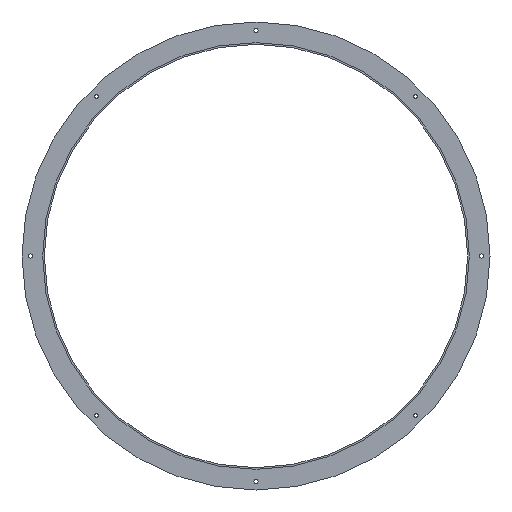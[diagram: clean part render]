
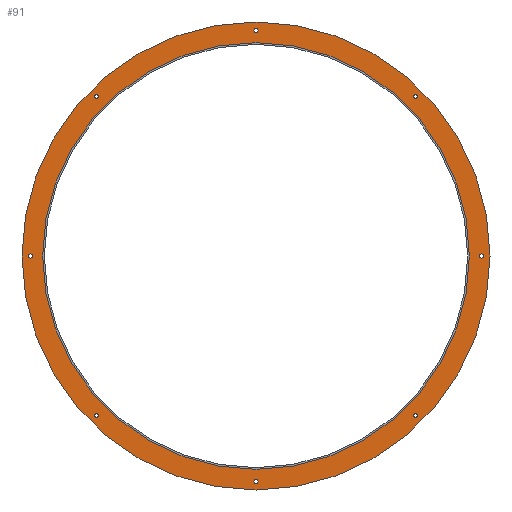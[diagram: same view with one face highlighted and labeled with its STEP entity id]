
A CAD part, front view. The second image highlights one B-rep face of the part: STEP entity #91.
In plain terms, the highlighted planar face has unit normal (0, -1, 0).
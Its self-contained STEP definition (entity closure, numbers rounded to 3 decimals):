
#91=ADVANCED_FACE('',(#179,#180,#181,#182,#183,#184,#185,#186,#187,#188),#189,.F.);
#179=FACE_BOUND('',#280,.T.);
#180=FACE_BOUND('',#281,.T.);
#181=FACE_BOUND('',#282,.T.);
#182=FACE_BOUND('',#283,.T.);
#183=FACE_BOUND('',#284,.T.);
#184=FACE_BOUND('',#285,.T.);
#185=FACE_BOUND('',#286,.T.);
#186=FACE_BOUND('',#287,.T.);
#187=FACE_OUTER_BOUND('',#288,.T.);
#188=FACE_BOUND('',#289,.T.);
#189=PLANE('',#290);
#280=EDGE_LOOP('',(#480,#481));
#281=EDGE_LOOP('',(#482,#483));
#282=EDGE_LOOP('',(#484,#485));
#283=EDGE_LOOP('',(#486,#487));
#284=EDGE_LOOP('',(#488,#489));
#285=EDGE_LOOP('',(#490,#491));
#286=EDGE_LOOP('',(#492,#493));
#287=EDGE_LOOP('',(#494,#495));
#288=EDGE_LOOP('',(#496,#497));
#289=EDGE_LOOP('',(#498,#499));
#290=AXIS2_PLACEMENT_3D('',#500,#501,#502);
#480=ORIENTED_EDGE('',*,*,#595,.T.);
#481=ORIENTED_EDGE('',*,*,#600,.T.);
#482=ORIENTED_EDGE('',*,*,#590,.T.);
#483=ORIENTED_EDGE('',*,*,#603,.T.);
#484=ORIENTED_EDGE('',*,*,#585,.T.);
#485=ORIENTED_EDGE('',*,*,#606,.T.);
#486=ORIENTED_EDGE('',*,*,#580,.T.);
#487=ORIENTED_EDGE('',*,*,#609,.T.);
#488=ORIENTED_EDGE('',*,*,#575,.T.);
#489=ORIENTED_EDGE('',*,*,#612,.T.);
#490=ORIENTED_EDGE('',*,*,#570,.T.);
#491=ORIENTED_EDGE('',*,*,#615,.T.);
#492=ORIENTED_EDGE('',*,*,#565,.T.);
#493=ORIENTED_EDGE('',*,*,#618,.T.);
#494=ORIENTED_EDGE('',*,*,#560,.T.);
#495=ORIENTED_EDGE('',*,*,#621,.T.);
#496=ORIENTED_EDGE('',*,*,#547,.F.);
#497=ORIENTED_EDGE('',*,*,#629,.F.);
#498=ORIENTED_EDGE('',*,*,#552,.F.);
#499=ORIENTED_EDGE('',*,*,#626,.F.);
#500=CARTESIAN_POINT('',(0.0,-4.0,0.));
#501=DIRECTION('',(0.0,1.0,0.));
#502=DIRECTION('',(1.0,0.0,0.0));
#547=EDGE_CURVE('',#640,#636,#642,.T.);
#552=EDGE_CURVE('',#649,#645,#651,.T.);
#560=EDGE_CURVE('',#665,#662,#666,.T.);
#565=EDGE_CURVE('',#674,#671,#675,.T.);
#570=EDGE_CURVE('',#683,#680,#684,.T.);
#575=EDGE_CURVE('',#692,#689,#693,.T.);
#580=EDGE_CURVE('',#701,#698,#702,.T.);
#585=EDGE_CURVE('',#710,#707,#711,.T.);
#590=EDGE_CURVE('',#719,#716,#720,.T.);
#595=EDGE_CURVE('',#728,#725,#729,.T.);
#600=EDGE_CURVE('',#725,#728,#735,.T.);
#603=EDGE_CURVE('',#716,#719,#738,.T.);
#606=EDGE_CURVE('',#707,#710,#741,.T.);
#609=EDGE_CURVE('',#698,#701,#744,.T.);
#612=EDGE_CURVE('',#689,#692,#747,.T.);
#615=EDGE_CURVE('',#680,#683,#750,.T.);
#618=EDGE_CURVE('',#671,#674,#753,.T.);
#621=EDGE_CURVE('',#662,#665,#756,.T.);
#626=EDGE_CURVE('',#645,#649,#761,.T.);
#629=EDGE_CURVE('',#636,#640,#764,.T.);
#636=VERTEX_POINT('',#771);
#640=VERTEX_POINT('',#776);
#642=CIRCLE('',#779,555.0);
#645=VERTEX_POINT('',#782);
#649=VERTEX_POINT('',#787);
#651=CIRCLE('',#790,506.0);
#662=VERTEX_POINT('',#803);
#665=VERTEX_POINT('',#807);
#666=CIRCLE('',#808,5.0);
#671=VERTEX_POINT('',#814);
#674=VERTEX_POINT('',#818);
#675=CIRCLE('',#819,5.0);
#680=VERTEX_POINT('',#825);
#683=VERTEX_POINT('',#829);
#684=CIRCLE('',#830,5.0);
#689=VERTEX_POINT('',#836);
#692=VERTEX_POINT('',#840);
#693=CIRCLE('',#841,5.0);
#698=VERTEX_POINT('',#847);
#701=VERTEX_POINT('',#851);
#702=CIRCLE('',#852,5.0);
#707=VERTEX_POINT('',#858);
#710=VERTEX_POINT('',#862);
#711=CIRCLE('',#863,5.0);
#716=VERTEX_POINT('',#869);
#719=VERTEX_POINT('',#873);
#720=CIRCLE('',#874,5.0);
#725=VERTEX_POINT('',#880);
#728=VERTEX_POINT('',#884);
#729=CIRCLE('',#885,5.0);
#735=CIRCLE('',#892,5.0);
#738=CIRCLE('',#895,5.0);
#741=CIRCLE('',#898,5.0);
#744=CIRCLE('',#901,5.0);
#747=CIRCLE('',#904,5.0);
#750=CIRCLE('',#907,5.0);
#753=CIRCLE('',#910,5.0);
#756=CIRCLE('',#913,5.0);
#761=CIRCLE('',#918,506.0);
#764=CIRCLE('',#921,555.0);
#771=CARTESIAN_POINT('',(555.0,-4.0,0.));
#776=CARTESIAN_POINT('',(-555.0,-4.0,0.));
#779=AXIS2_PLACEMENT_3D('',#931,#932,#933);
#782=CARTESIAN_POINT('',(506.0,-4.0,0.));
#787=CARTESIAN_POINT('',(-506.0,-4.0,0.));
#790=AXIS2_PLACEMENT_3D('',#939,#940,#941);
#803=CARTESIAN_POINT('',(540.0,-4.0,0.));
#807=CARTESIAN_POINT('',(530.0,-4.0,0.));
#808=AXIS2_PLACEMENT_3D('',#951,#952,#953);
#814=CARTESIAN_POINT('',(381.838,-4.,381.838));
#818=CARTESIAN_POINT('',(374.767,-4.,374.767));
#819=AXIS2_PLACEMENT_3D('',#959,#960,#961);
#825=CARTESIAN_POINT('',(0.,-4.,540.0));
#829=CARTESIAN_POINT('',(0.,-4.,530.0));
#830=AXIS2_PLACEMENT_3D('',#967,#968,#969);
#836=CARTESIAN_POINT('',(-381.838,-4.,381.838));
#840=CARTESIAN_POINT('',(-374.767,-4.,374.767));
#841=AXIS2_PLACEMENT_3D('',#975,#976,#977);
#847=CARTESIAN_POINT('',(-540.0,-4.0,0.));
#851=CARTESIAN_POINT('',(-530.0,-4.0,0.));
#852=AXIS2_PLACEMENT_3D('',#983,#984,#985);
#858=CARTESIAN_POINT('',(-381.838,-4.,-381.838));
#862=CARTESIAN_POINT('',(-374.767,-4.,-374.767));
#863=AXIS2_PLACEMENT_3D('',#991,#992,#993);
#869=CARTESIAN_POINT('',(0.,-4.,-540.0));
#873=CARTESIAN_POINT('',(0.,-4.,-530.0));
#874=AXIS2_PLACEMENT_3D('',#999,#1000,#1001);
#880=CARTESIAN_POINT('',(381.838,-4.,-381.838));
#884=CARTESIAN_POINT('',(374.767,-4.,-374.767));
#885=AXIS2_PLACEMENT_3D('',#1007,#1008,#1009);
#892=AXIS2_PLACEMENT_3D('',#1017,#1018,#1019);
#895=AXIS2_PLACEMENT_3D('',#1023,#1024,#1025);
#898=AXIS2_PLACEMENT_3D('',#1029,#1030,#1031);
#901=AXIS2_PLACEMENT_3D('',#1035,#1036,#1037);
#904=AXIS2_PLACEMENT_3D('',#1041,#1042,#1043);
#907=AXIS2_PLACEMENT_3D('',#1047,#1048,#1049);
#910=AXIS2_PLACEMENT_3D('',#1053,#1054,#1055);
#913=AXIS2_PLACEMENT_3D('',#1059,#1060,#1061);
#918=AXIS2_PLACEMENT_3D('',#1068,#1069,#1070);
#921=AXIS2_PLACEMENT_3D('',#1074,#1075,#1076);
#931=CARTESIAN_POINT('',(0.0,-4.0,0.));
#932=DIRECTION('',(0.0,1.0,0.));
#933=DIRECTION('',(1.0,0.0,0.0));
#939=CARTESIAN_POINT('',(0.0,-4.0,0.));
#940=DIRECTION('',(0.0,-1.0,0.));
#941=DIRECTION('',(1.0,0.0,0.0));
#951=CARTESIAN_POINT('',(535.0,-4.0,0.));
#952=DIRECTION('',(0.0,1.0,0.));
#953=DIRECTION('',(1.0,0.0,0.0));
#959=CARTESIAN_POINT('',(378.302,-4.,378.302));
#960=DIRECTION('',(0.0,1.0,0.));
#961=DIRECTION('',(0.707,0.,0.707));
#967=CARTESIAN_POINT('',(0.,-4.,535.0));
#968=DIRECTION('',(0.0,1.0,0.));
#969=DIRECTION('',(0.,0.,1.0));
#975=CARTESIAN_POINT('',(-378.302,-4.,378.302));
#976=DIRECTION('',(0.0,1.0,0.));
#977=DIRECTION('',(-0.707,0.,0.707));
#983=CARTESIAN_POINT('',(-535.0,-4.0,0.));
#984=DIRECTION('',(0.0,1.0,0.));
#985=DIRECTION('',(-1.0,0.,0.));
#991=CARTESIAN_POINT('',(-378.302,-4.,-378.302));
#992=DIRECTION('',(0.,1.0,0.));
#993=DIRECTION('',(-0.707,0.,-0.707));
#999=CARTESIAN_POINT('',(0.,-4.,-535.0));
#1000=DIRECTION('',(0.0,1.0,0.));
#1001=DIRECTION('',(0.,0.,-1.0));
#1007=CARTESIAN_POINT('',(378.302,-4.,-378.302));
#1008=DIRECTION('',(0.0,1.0,0.));
#1009=DIRECTION('',(0.707,0.,-0.707));
#1017=CARTESIAN_POINT('',(378.302,-4.,-378.302));
#1018=DIRECTION('',(0.0,1.0,0.));
#1019=DIRECTION('',(0.707,0.,-0.707));
#1023=CARTESIAN_POINT('',(0.,-4.,-535.0));
#1024=DIRECTION('',(0.0,1.0,0.));
#1025=DIRECTION('',(0.,0.,-1.0));
#1029=CARTESIAN_POINT('',(-378.302,-4.,-378.302));
#1030=DIRECTION('',(0.,1.0,0.));
#1031=DIRECTION('',(-0.707,0.,-0.707));
#1035=CARTESIAN_POINT('',(-535.0,-4.0,0.));
#1036=DIRECTION('',(0.0,1.0,0.));
#1037=DIRECTION('',(-1.0,0.,0.));
#1041=CARTESIAN_POINT('',(-378.302,-4.,378.302));
#1042=DIRECTION('',(0.0,1.0,0.));
#1043=DIRECTION('',(-0.707,0.,0.707));
#1047=CARTESIAN_POINT('',(0.,-4.,535.0));
#1048=DIRECTION('',(0.0,1.0,0.));
#1049=DIRECTION('',(0.,0.,1.0));
#1053=CARTESIAN_POINT('',(378.302,-4.,378.302));
#1054=DIRECTION('',(0.0,1.0,0.));
#1055=DIRECTION('',(0.707,0.,0.707));
#1059=CARTESIAN_POINT('',(535.0,-4.0,0.));
#1060=DIRECTION('',(0.0,1.0,0.));
#1061=DIRECTION('',(1.0,0.0,0.0));
#1068=CARTESIAN_POINT('',(0.0,-4.0,0.));
#1069=DIRECTION('',(0.0,-1.0,0.));
#1070=DIRECTION('',(1.0,0.0,0.0));
#1074=CARTESIAN_POINT('',(0.0,-4.0,0.));
#1075=DIRECTION('',(0.0,1.0,0.));
#1076=DIRECTION('',(1.0,0.0,0.0));
